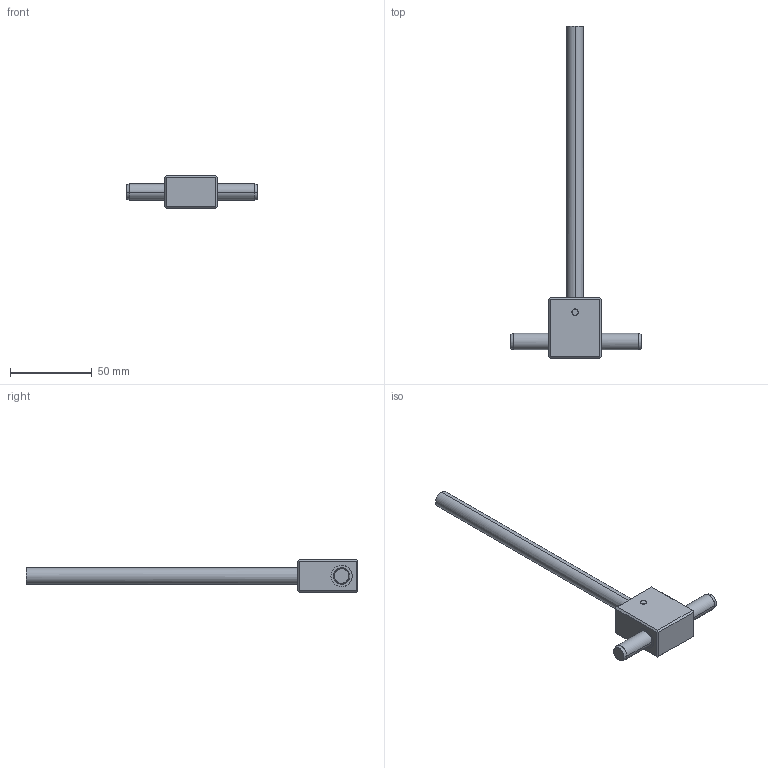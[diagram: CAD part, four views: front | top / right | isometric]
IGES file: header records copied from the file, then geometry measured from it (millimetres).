
Start section: START RECORD GO HERE.
Global section: file name: sd3220gr.igs; native system: DASSAULT SYSTEMES CATIA V5 R20 - www.3ds.com; preprocessor: CATIA Version 5 Release 20 ; author: Utente; organization: NB04-ASUS; date: 20201107.132447; units: millimetre
Bounding box: 80 x 203 x 20 mm (x, y, z)
Surface area: 18968.4 mm2 (no closed solid volume)
Topology: 0 solids, 0 shells, 149 faces, 660 edges, 660 vertices
Faces by surface type: revolution 110, plane 39
